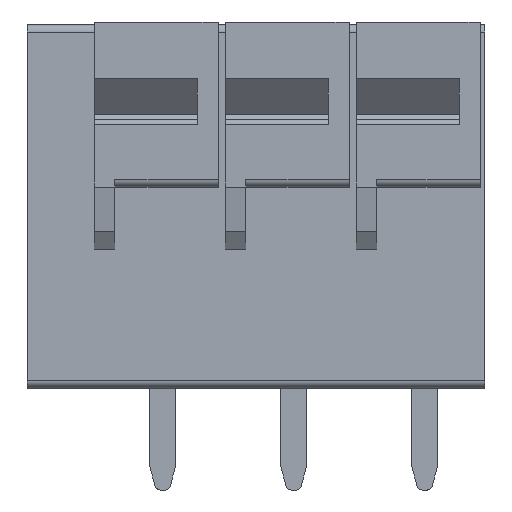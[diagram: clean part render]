
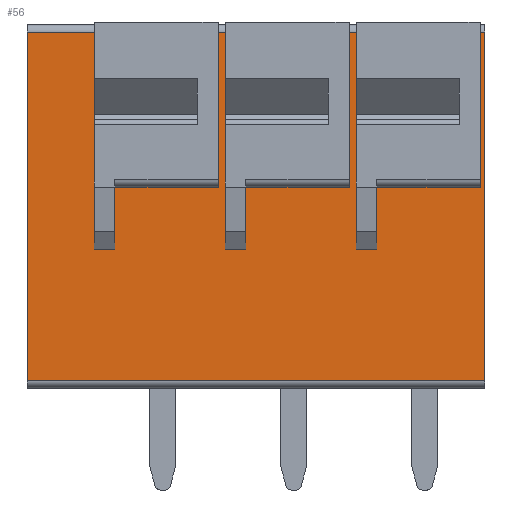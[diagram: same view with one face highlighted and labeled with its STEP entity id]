
A CAD part, left-side view. The second image highlights one B-rep face of the part: STEP entity #56.
In plain terms, the highlighted planar face has unit normal (-1, 0, 0).
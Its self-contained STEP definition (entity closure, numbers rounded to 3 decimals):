
#56=ADVANCED_FACE('3582',(#290,#291,#292,#293),#294,.T.);
#290=FACE_OUTER_BOUND('',#740,.T.);
#291=FACE_BOUND('',#741,.T.);
#292=FACE_BOUND('',#742,.T.);
#293=FACE_BOUND('',#743,.T.);
#294=PLANE('',#744);
#740=EDGE_LOOP('',(#1267,#1268,#1269,#1270));
#741=EDGE_LOOP('',(#1271,#1272,#1273,#1274));
#742=EDGE_LOOP('',(#1275,#1276,#1277,#1278));
#743=EDGE_LOOP('',(#1279,#1280,#1281,#1282));
#744=AXIS2_PLACEMENT_3D('',#1283,#1284,#1285);
#1267=ORIENTED_EDGE('',*,*,#3031,.T.);
#1268=ORIENTED_EDGE('',*,*,#3030,.T.);
#1269=ORIENTED_EDGE('',*,*,#3032,.F.);
#1270=ORIENTED_EDGE('',*,*,#3033,.F.);
#1271=ORIENTED_EDGE('',*,*,#3034,.T.);
#1272=ORIENTED_EDGE('',*,*,#3035,.T.);
#1273=ORIENTED_EDGE('',*,*,#3036,.F.);
#1274=ORIENTED_EDGE('',*,*,#3037,.T.);
#1275=ORIENTED_EDGE('',*,*,#3038,.T.);
#1276=ORIENTED_EDGE('',*,*,#3039,.T.);
#1277=ORIENTED_EDGE('',*,*,#3040,.T.);
#1278=ORIENTED_EDGE('',*,*,#3041,.F.);
#1279=ORIENTED_EDGE('',*,*,#3042,.T.);
#1280=ORIENTED_EDGE('',*,*,#3043,.T.);
#1281=ORIENTED_EDGE('',*,*,#3044,.F.);
#1282=ORIENTED_EDGE('',*,*,#3045,.T.);
#1283=CARTESIAN_POINT('',(-5.2,0.0,-6.8));
#1284=DIRECTION('',(-1.0,0.0,0.0));
#1285=DIRECTION('',(0.0,0.0,1.0));
#3030=EDGE_CURVE('4325',#3663,#3665,#3667,.T.);
#3031=EDGE_CURVE('3905',#3668,#3663,#3669,.T.);
#3032=EDGE_CURVE('4057',#3670,#3665,#3671,.T.);
#3033=EDGE_CURVE('4320',#3668,#3670,#3672,.T.);
#3034=EDGE_CURVE('4301',#3673,#3674,#3675,.T.);
#3035=EDGE_CURVE('4359',#3674,#3676,#3677,.T.);
#3036=EDGE_CURVE('4215',#3678,#3676,#3679,.T.);
#3037=EDGE_CURVE('4360',#3678,#3673,#3680,.T.);
#3038=EDGE_CURVE('3977',#3681,#3682,#3683,.T.);
#3039=EDGE_CURVE('3961',#3682,#3684,#3685,.T.);
#3040=EDGE_CURVE('3960',#3684,#3686,#3687,.T.);
#3041=EDGE_CURVE('3978',#3681,#3686,#3688,.T.);
#3042=EDGE_CURVE('3962',#3689,#3690,#3691,.T.);
#3043=EDGE_CURVE('4340',#3690,#3692,#3693,.T.);
#3044=EDGE_CURVE('4315',#3694,#3692,#3695,.T.);
#3045=EDGE_CURVE('4342',#3694,#3689,#3696,.T.);
#3663=VERTEX_POINT('',#4664);
#3665=VERTEX_POINT('',#4666);
#3667=LINE('',#4668,#4669);
#3668=VERTEX_POINT('',#4670);
#3669=LINE('',#4671,#4672);
#3670=VERTEX_POINT('',#4673);
#3671=LINE('',#4674,#4675);
#3672=LINE('',#4676,#4677);
#3673=VERTEX_POINT('',#4678);
#3674=VERTEX_POINT('',#4679);
#3675=LINE('',#4680,#4681);
#3676=VERTEX_POINT('',#4682);
#3677=LINE('',#4683,#4684);
#3678=VERTEX_POINT('',#4685);
#3679=LINE('',#4686,#4687);
#3680=LINE('',#4688,#4689);
#3681=VERTEX_POINT('',#4690);
#3682=VERTEX_POINT('',#4691);
#3683=LINE('',#4692,#4693);
#3684=VERTEX_POINT('',#4694);
#3685=LINE('',#4695,#4696);
#3686=VERTEX_POINT('',#4697);
#3687=LINE('',#4698,#4699);
#3688=LINE('',#4700,#4701);
#3689=VERTEX_POINT('',#4702);
#3690=VERTEX_POINT('',#4703);
#3691=LINE('',#4704,#4705);
#3692=VERTEX_POINT('',#4706);
#3693=LINE('',#4707,#4708);
#3694=VERTEX_POINT('',#4709);
#3695=LINE('',#4710,#4711);
#3696=LINE('',#4712,#4713);
#4664=CARTESIAN_POINT('',(-5.2,7.5,-6.5));
#4666=CARTESIAN_POINT('',(-5.2,-10.24,-6.5));
#4668=CARTESIAN_POINT('',(-5.2,7.5,-6.5));
#4669=VECTOR('',#5967,17.74);
#4670=CARTESIAN_POINT('',(-5.2,7.5,7.0));
#4671=CARTESIAN_POINT('',(-5.2,7.5,7.0));
#4672=VECTOR('',#5968,13.5);
#4673=CARTESIAN_POINT('',(-5.2,-10.24,7.0));
#4674=CARTESIAN_POINT('',(-5.2,-10.24,7.0));
#4675=VECTOR('',#5969,13.5);
#4676=CARTESIAN_POINT('',(-5.2,7.5,7.0));
#4677=VECTOR('',#5970,17.74);
#4678=CARTESIAN_POINT('',(-5.2,-5.26,-1.404));
#4679=CARTESIAN_POINT('',(-5.2,-5.26,4.1));
#4680=CARTESIAN_POINT('',(-5.2,-5.26,-1.404));
#4681=VECTOR('',#5971,5.504);
#4682=CARTESIAN_POINT('',(-5.2,-6.06,4.1));
#4683=CARTESIAN_POINT('',(-5.2,-5.26,4.1));
#4684=VECTOR('',#5972,0.8);
#4685=CARTESIAN_POINT('',(-5.2,-6.06,-1.404));
#4686=CARTESIAN_POINT('',(-5.2,-6.06,-1.404));
#4687=VECTOR('',#5973,5.504);
#4688=CARTESIAN_POINT('',(-5.2,-6.06,-1.404));
#4689=VECTOR('',#5974,0.8);
#4690=CARTESIAN_POINT('',(-5.2,4.1,4.1));
#4691=CARTESIAN_POINT('',(-5.2,4.1,-1.404));
#4692=CARTESIAN_POINT('',(-5.2,4.1,4.1));
#4693=VECTOR('',#5975,5.504);
#4694=CARTESIAN_POINT('',(-5.2,4.9,-1.404));
#4695=CARTESIAN_POINT('',(-5.2,4.1,-1.404));
#4696=VECTOR('',#5976,0.8);
#4697=CARTESIAN_POINT('',(-5.2,4.9,4.1));
#4698=CARTESIAN_POINT('',(-5.2,4.9,-1.404));
#4699=VECTOR('',#5977,5.504);
#4700=CARTESIAN_POINT('',(-5.2,4.1,4.1));
#4701=VECTOR('',#5978,0.8);
#4702=CARTESIAN_POINT('',(-5.2,-0.18,-1.404));
#4703=CARTESIAN_POINT('',(-5.2,-0.18,4.1));
#4704=CARTESIAN_POINT('',(-5.2,-0.18,-1.404));
#4705=VECTOR('',#5979,5.504);
#4706=CARTESIAN_POINT('',(-5.2,-0.98,4.1));
#4707=CARTESIAN_POINT('',(-5.2,-0.18,4.1));
#4708=VECTOR('',#5980,0.8);
#4709=CARTESIAN_POINT('',(-5.2,-0.98,-1.404));
#4710=CARTESIAN_POINT('',(-5.2,-0.98,-1.404));
#4711=VECTOR('',#5981,5.504);
#4712=CARTESIAN_POINT('',(-5.2,-0.98,-1.404));
#4713=VECTOR('',#5982,0.8);
#5967=DIRECTION('',(0.0,-1.0,0.0));
#5968=DIRECTION('',(0.0,0.0,-1.0));
#5969=DIRECTION('',(0.0,0.0,-1.0));
#5970=DIRECTION('',(0.0,-1.0,0.0));
#5971=DIRECTION('',(0.,0.0,1.0));
#5972=DIRECTION('',(0.,-1.,0.));
#5973=DIRECTION('',(0.0,0.0,1.0));
#5974=DIRECTION('',(0.0,1.0,0.0));
#5975=DIRECTION('',(0.0,0.0,-1.0));
#5976=DIRECTION('',(0.0,1.0,0.0));
#5977=DIRECTION('',(0.,0.0,1.0));
#5978=DIRECTION('',(0.,1.,0.));
#5979=DIRECTION('',(0.,0.0,1.0));
#5980=DIRECTION('',(0.,-1.,0.));
#5981=DIRECTION('',(0.0,0.0,1.0));
#5982=DIRECTION('',(0.0,1.0,0.0));
